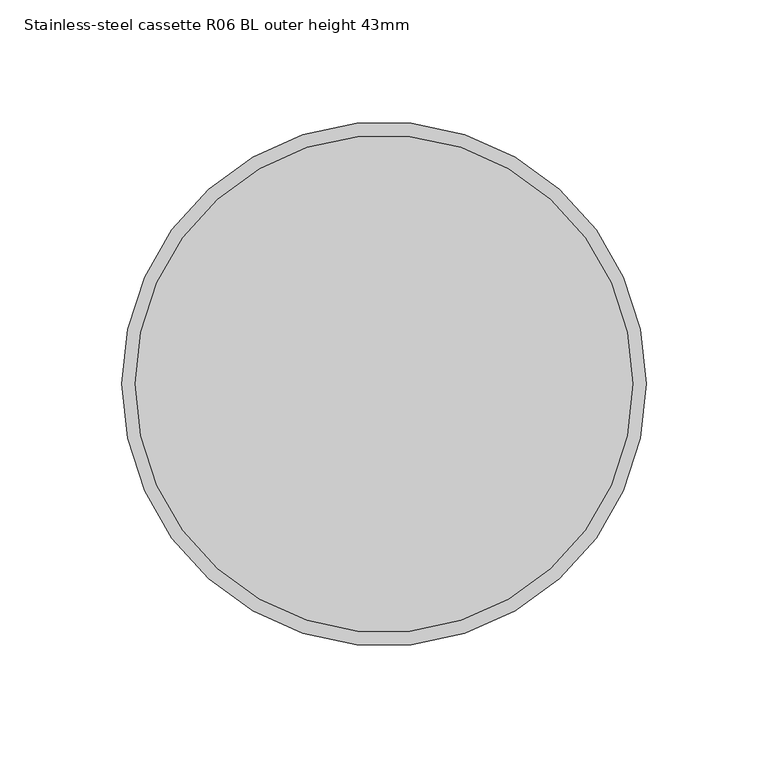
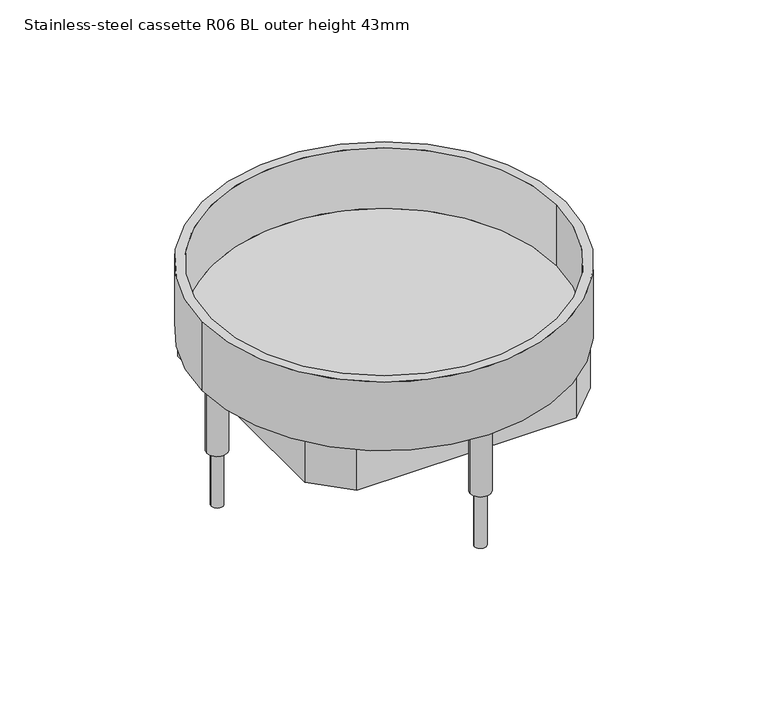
"""IFC4 building model written with IfcOpenShell, lengths in millimetres: proxy geometry, Electrical_Installation_Hager_VE-EE_EKR-Height-adjustable-stainless-steel-cassette-blank-round-for-damp-cleaned-floors : Stainless-steel cassette R06 BL outer height 43mm."""

from ifc_helpers import new_model, si_unit, point, frame, frame_2d, origin, place, context, project, spatial, polyline, circle_curve, trimmed, segment, composite_curve, outline, extrude, source, transform, mapped, element, save
from ifc_brep_helpers import plane_surface, cylinder_surface, revolved_surface, advanced_brep


def stainless_steel_cassette_r06_bl_outer_height_43mm_2dd6e790(model_context):
    return source(origin(), model_context, "Body", "SolidModel", [
        extrude(outline(composite_curve([segment(trimmed(circle_curve(frame_2d((-98.8, 0.0)), 3.5), [point((-102.3, 0.0))], [point((-95.3, 0.0))], False, "CARTESIAN"), True, "CONTINUOUS"), segment(trimmed(circle_curve(frame_2d((-98.8, 0.0)), 3.5), [point((-95.3, 0.0))], [point((-102.3, 0.0))], False, "CARTESIAN"), True, "CONTINUOUS")], self_intersect=False)), frame((0.0, 0.0, -115.0), z_axis=(0.0, 0.0, 1.0), x_axis=(1.0, 0.0, 0.0)), (0.0, 0.0, 1.0), 74.011943),
        extrude(outline(composite_curve([segment(trimmed(circle_curve(frame_2d((0.0, 98.8)), 3.5), [point((-3.5, 98.8))], [point((3.5, 98.8))], False, "CARTESIAN"), True, "CONTINUOUS"), segment(trimmed(circle_curve(frame_2d((0.0, 98.8)), 3.5), [point((3.5, 98.8))], [point((-3.5, 98.8))], False, "CARTESIAN"), True, "CONTINUOUS")], self_intersect=False)), frame((0.0, 0.0, -115.0), z_axis=(0.0, 0.0, 1.0), x_axis=(1.0, 0.0, 0.0)), (0.0, 0.0, 1.0), 74.011943),
        extrude(outline(composite_curve([segment(trimmed(circle_curve(frame_2d((98.8, 0.0)), 3.548869), [point((95.251131, 0.0))], [point((102.348869, 0.0))], False, "CARTESIAN"), True, "CONTINUOUS"), segment(trimmed(circle_curve(frame_2d((98.8, 0.0)), 3.548869), [point((102.348869, 0.0))], [point((95.251131, 0.0))], False, "CARTESIAN"), True, "CONTINUOUS")], self_intersect=False)), frame((0.0, 0.0, -115.0), z_axis=(0.0, 0.0, 1.0), x_axis=(1.0, 0.0, 0.0)), (0.0, 0.0, 1.0), 74.011943),
        extrude(outline(composite_curve([segment(trimmed(circle_curve(frame_2d((0.0, -98.8)), 3.5), [point((-3.5, -98.8))], [point((3.5, -98.8))], False, "CARTESIAN"), True, "CONTINUOUS"), segment(trimmed(circle_curve(frame_2d((0.0, -98.8)), 3.5), [point((3.5, -98.8))], [point((-3.5, -98.8))], False, "CARTESIAN"), True, "CONTINUOUS")], self_intersect=False)), frame((0.0, 0.0, -115.0), z_axis=(0.0, 0.0, 1.0), x_axis=(1.0, 0.0, 0.0)), (0.0, 0.0, 1.0), 74.011943),
        advanced_brep(
        [(102.0, 0.0, -35.988057), (-102.0, 0.0, -35.988057), (-107.5, 0.0, -40.988057), (107.5, 0.0, -40.988057), (-107.5, 0.0, 2.011943), (107.5, 0.0, 2.011943), (-102.0, 0.0, 2.011943), (102.0, 0.0, 2.011943)],
        [
            (0, 1, circle_curve(frame((0.0, 0.0, -35.988057), z_axis=(0.0, 0.0, 1.0), x_axis=(1.0, 0.0, 0.0)), 102.0)),
            (1, 0, circle_curve(frame((0.0, 0.0, -35.988057), z_axis=(0.0, 0.0, 1.0), x_axis=(1.0, 0.0, 0.0)), 102.0)),
            (2, 3, circle_curve(frame((0.0, 0.0, -40.988057), z_axis=(0.0, 0.0, -1.0), x_axis=(1.0, 0.0, 0.0)), 107.5)),
            (3, 2, circle_curve(frame((0.0, 0.0, -40.988057), z_axis=(0.0, 0.0, -1.0), x_axis=(1.0, 0.0, 0.0)), 107.5)),
            (4, 5, circle_curve(frame((0.0, 0.0, 2.011943), z_axis=(0.0, 0.0, 1.0), x_axis=(1.0, 0.0, 0.0)), 107.5)),
            (5, 4, circle_curve(frame((0.0, 0.0, 2.011943), z_axis=(0.0, 0.0, 1.0), x_axis=(1.0, 0.0, 0.0)), 107.5)),
            (6, 7, circle_curve(frame((0.0, 0.0, 2.011943), z_axis=(0.0, 0.0, -1.0), x_axis=(1.0, 0.0, 0.0)), 102.0)),
            (7, 6, circle_curve(frame((0.0, 0.0, 2.011943), z_axis=(0.0, 0.0, -1.0), x_axis=(1.0, 0.0, 0.0)), 102.0)),
            (4, 2),
            (3, 5),
            (6, 1),
            (0, 7),
        ],
        [
            plane_surface(frame((102.0, 0.0, -35.988057), z_axis=(0.0, 0.0, 1.0), x_axis=(0.0, 1.0, 0.0))),
            plane_surface(frame((102.0, 0.0, -40.988057), z_axis=(0.0, 0.0, -1.0), x_axis=(0.0, -1.0, 0.0))),
            plane_surface(frame((107.5, 0.0, 2.011943), z_axis=(0.0, 0.0, 1.0), x_axis=(0.0, 1.0, 0.0))),
            cylinder_surface(frame((0.0, 0.0, -40.988057), z_axis=(0.0, 0.0, 1.0), x_axis=(1.0, 0.0, 0.0)), 107.5),
            revolved_surface(polyline([(102.0, 0.0, -35.988057), (102.0, 0.0, 2.011943)]), (0.0, 0.0, 0.0), (0.0, 0.0, -1.0)),
        ],
        [
            (0, [[1, 2]]),
            (1, [[3, 4]]),
            (2, [[5, 6], [7, 8]]),
            (3, [[-5, 9, -4, 10]]),
            (3, [[-6, -10, -3, -9]]),
            (4, [[-7, 11, -1, 12]]),
            (4, [[-8, -12, -2, -11]]),
        ],
    ),
        extrude(outline(polyline([(64.9818914, 84.5), (84.5, 64.9818914), (84.5, -64.9818914), (64.9818914, -84.5), (-64.9818914, -84.5), (-84.5, -64.9818914), (-84.5, 64.9818914), (-64.9818914, 84.5), (64.9818914, 84.5)]), holes=[polyline([(-81.5, 63.8602374), (-81.5, -63.8602374), (-63.8602374, -81.5), (63.8602374, -81.5), (81.5, -63.8602374), (81.5, 63.8602374), (63.8602374, 81.5), (-63.8602374, 81.5), (-81.5, 63.8602374)])]), frame((0.0, 0.0, -66.9283404), z_axis=(0.0, 0.0, 1.0), x_axis=(1.0, 0.0, 0.0)), (0.0, 0.0, 1.0), 25.9402834),
        extrude(outline(composite_curve([segment(trimmed(circle_curve(frame_2d((0.0, 98.8)), 5.9738904), [point((-5.9738904, 98.8))], [point((5.9738904, 98.8))], False, "CARTESIAN"), True, "CONTINUOUS"), segment(trimmed(circle_curve(frame_2d((0.0, 98.8)), 5.9738904), [point((5.9738904, 98.8))], [point((-5.9738904, 98.8))], False, "CARTESIAN"), True, "CONTINUOUS")], self_intersect=False)), frame((0.0, 0.0, -81.0371838), z_axis=(0.0, 0.0, 1.0), x_axis=(1.0, 0.0, 0.0)), (0.0, 0.0, 1.0), 40.0491267),
        extrude(outline(composite_curve([segment(trimmed(circle_curve(frame_2d((98.8, 0.0)), 6.0), [point((92.8, 0.0))], [point((104.8, 0.0))], False, "CARTESIAN"), True, "CONTINUOUS"), segment(trimmed(circle_curve(frame_2d((98.8, 0.0)), 6.0), [point((104.8, 0.0))], [point((92.8, 0.0))], False, "CARTESIAN"), True, "CONTINUOUS")], self_intersect=False)), frame((0.0, 0.0, -81.0371838), z_axis=(0.0, 0.0, 1.0), x_axis=(1.0, 0.0, 0.0)), (0.0, 0.0, 1.0), 40.0491267),
        extrude(outline(composite_curve([segment(trimmed(circle_curve(frame_2d((0.0, -98.8)), 6.0), [point((-6.0, -98.8))], [point((6.0, -98.8))], False, "CARTESIAN"), True, "CONTINUOUS"), segment(trimmed(circle_curve(frame_2d((0.0, -98.8)), 6.0), [point((6.0, -98.8))], [point((-6.0, -98.8))], False, "CARTESIAN"), True, "CONTINUOUS")], self_intersect=False)), frame((0.0, 0.0, -81.0371838), z_axis=(0.0, 0.0, 1.0), x_axis=(1.0, 0.0, 0.0)), (0.0, 0.0, 1.0), 40.0491267),
        extrude(outline(composite_curve([segment(trimmed(circle_curve(frame_2d((-98.8, 0.0)), 6.0), [point((-104.8, 0.0))], [point((-92.8, 0.0))], False, "CARTESIAN"), True, "CONTINUOUS"), segment(trimmed(circle_curve(frame_2d((-98.8, 0.0)), 6.0), [point((-92.8, 0.0))], [point((-104.8, 0.0))], False, "CARTESIAN"), True, "CONTINUOUS")], self_intersect=False)), frame((0.0, 0.0, -81.0371838), z_axis=(0.0, 0.0, 1.0), x_axis=(1.0, 0.0, 0.0)), (0.0, 0.0, 1.0), 40.0491267),
    ])


if __name__ == "__main__":
    model = new_model("IFC4")
    model_context = context("Model", 3, world=origin())
    ifc_project = project(units=[si_unit("LENGTHUNIT", "METRE", prefix="MILLI")], contexts=[model_context])
    site = spatial("IfcSite", under=ifc_project)
    building = spatial("IfcBuilding", under=site)
    placement = place(None, origin())
    stainless_steel_cassette_r06_bl_outer_height_43mm_shape = stainless_steel_cassette_r06_bl_outer_height_43mm_2dd6e790(model_context)
    element("IfcBuildingElementProxy", 1, Name="Electrical_Installation_Hager_VE-EE_EKR-Height-adjustable-stainless-steel-cassette-blank-round-for-damp-cleaned-floors : Stainless-steel cassette R06 BL outer height 43mm", ObjectType="Electrical_Installation_Hager_VE-EE_EKR-Height-adjustable-stainless-steel-cassette-blank-round-for-damp-cleaned-floors : Stainless-steel cassette R06 BL outer height 43mm", at=placement, inside=building, context=model_context, shape_type="MappedRepresentation", body=[
        mapped(stainless_steel_cassette_r06_bl_outer_height_43mm_shape, transform((0.0, 0.0, 0.0), x_axis=(1.0, 0.0, 0.0), y_axis=(0.0, 1.0, 0.0), z_axis=(0.0, 0.0, 1.0))),
    ])
    save(model, "model.ifc")
